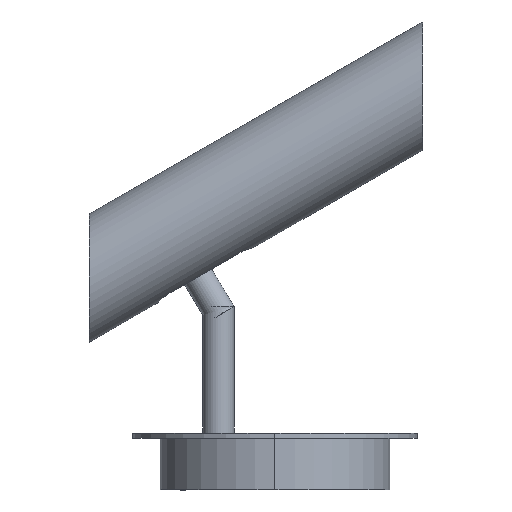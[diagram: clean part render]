
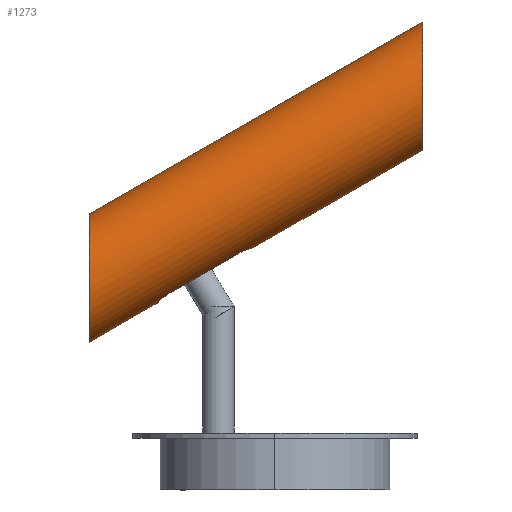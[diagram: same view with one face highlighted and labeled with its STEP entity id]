
A CAD part, left-side view. The second image highlights one B-rep face of the part: STEP entity #1273.
In plain terms, the highlighted cylindrical face has radius 19.495 mm (diameter 38.989 mm), a partial arc.
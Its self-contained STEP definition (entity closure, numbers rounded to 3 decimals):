
#61=ELLIPSE('',#1364,22.511,19.495);
#65=ELLIPSE('',#1369,22.511,19.495);
#68=B_SPLINE_CURVE_WITH_KNOTS('',3,(#1902,#1903,#1904,#1905,#1906,#1907,
#1908,#1909,#1910,#1911,#1912,#1913,#1914,#1915,#1916,#1917,#1918,#1919),
 .UNSPECIFIED.,.F.,.F.,(4,2,2,2,2,2,2,2,4),(26.686,27.615,
28.718,29.821,30.925,32.029,33.133,
34.238,35.342),.UNSPECIFIED.);
#71=B_SPLINE_CURVE_WITH_KNOTS('',3,(#1969,#1970,#1971,#1972,#1973,#1974,
#1975,#1976,#1977,#1978,#1979,#1980,#1981,#1982,#1983,#1984,#1985,#1986),
 .UNSPECIFIED.,.F.,.F.,(4,2,2,2,2,2,2,2,4),(0.,1.104,
2.208,3.312,4.416,5.52,6.623,
7.727,8.656),.UNSPECIFIED.);
#126=CYLINDRICAL_SURFACE('',#1376,19.495);
#160=FACE_OUTER_BOUND('',#245,.T.);
#245=EDGE_LOOP('',(#896,#897,#898,#899,#900,#901,#902,#903));
#332=LINE('',#1945,#453);
#334=LINE('',#2014,#455);
#335=LINE('',#2015,#456);
#336=LINE('',#2016,#457);
#453=VECTOR('',#1509,304.8);
#455=VECTOR('',#1547,304.8);
#456=VECTOR('',#1548,304.8);
#457=VECTOR('',#1549,304.8);
#572=VERTEX_POINT('',#1899);
#573=VERTEX_POINT('',#1901);
#575=VERTEX_POINT('',#1943);
#576=VERTEX_POINT('',#1948);
#577=VERTEX_POINT('',#1989);
#578=VERTEX_POINT('',#1990);
#581=VERTEX_POINT('',#1998);
#582=VERTEX_POINT('',#1999);
#685=EDGE_CURVE('',#573,#572,#68,.T.);
#689=EDGE_CURVE('',#572,#575,#332,.T.);
#692=EDGE_CURVE('',#575,#576,#71,.T.);
#694=EDGE_CURVE('',#578,#577,#61,.T.);
#698=EDGE_CURVE('',#582,#581,#65,.T.);
#704=EDGE_CURVE('',#582,#577,#334,.T.);
#705=EDGE_CURVE('',#573,#581,#335,.T.);
#706=EDGE_CURVE('',#578,#576,#336,.T.);
#896=ORIENTED_EDGE('',*,*,#704,.F.);
#897=ORIENTED_EDGE('',*,*,#698,.T.);
#898=ORIENTED_EDGE('',*,*,#705,.F.);
#899=ORIENTED_EDGE('',*,*,#685,.T.);
#900=ORIENTED_EDGE('',*,*,#689,.T.);
#901=ORIENTED_EDGE('',*,*,#692,.T.);
#902=ORIENTED_EDGE('',*,*,#706,.F.);
#903=ORIENTED_EDGE('',*,*,#694,.T.);
#1273=ADVANCED_FACE('',(#160),#126,.T.);
#1364=AXIS2_PLACEMENT_3D('',#1992,#1520,#1521);
#1369=AXIS2_PLACEMENT_3D('',#2001,#1530,#1531);
#1376=AXIS2_PLACEMENT_3D('',#2013,#1545,#1546);
#1509=DIRECTION('',(0.,0.866,0.499));
#1520=DIRECTION('center_axis',(0.,-1.,0.001));
#1521=DIRECTION('ref_axis',(0.,-0.001,
-1.));
#1530=DIRECTION('center_axis',(0.,1.,-0.001));
#1531=DIRECTION('ref_axis',(0.,-0.001,
-1.));
#1545=DIRECTION('center_axis',(0.,0.866,0.499));
#1546=DIRECTION('ref_axis',(0.,0.499,-0.866));
#1547=DIRECTION('',(0.,0.866,0.499));
#1548=DIRECTION('',(0.,-0.866,-0.499));
#1549=DIRECTION('',(0.,-0.866,-0.499));
#1899=CARTESIAN_POINT('',(5.65,-36.724,69.214));
#1901=CARTESIAN_POINT('',(0.,-41.352,65.583));
#1902=CARTESIAN_POINT('Ctrl Pts',(0.,-41.352,
65.583));
#1903=CARTESIAN_POINT('Ctrl Pts',(0.313,-41.344,65.587));
#1904=CARTESIAN_POINT('Ctrl Pts',(0.632,-41.317,65.612));
#1905=CARTESIAN_POINT('Ctrl Pts',(1.326,-41.216,65.709));
#1906=CARTESIAN_POINT('Ctrl Pts',(1.701,-41.132,65.791));
#1907=CARTESIAN_POINT('Ctrl Pts',(2.418,-40.912,66.006));
#1908=CARTESIAN_POINT('Ctrl Pts',(2.761,-40.775,66.138));
#1909=CARTESIAN_POINT('Ctrl Pts',(3.395,-40.456,66.439));
#1910=CARTESIAN_POINT('Ctrl Pts',(3.685,-40.274,66.607));
#1911=CARTESIAN_POINT('Ctrl Pts',(4.2,-39.881,66.956));
#1912=CARTESIAN_POINT('Ctrl Pts',(4.443,-39.657,67.15));
#1913=CARTESIAN_POINT('Ctrl Pts',(4.87,-39.16,67.557));
#1914=CARTESIAN_POINT('Ctrl Pts',(5.055,-38.887,67.771));
#1915=CARTESIAN_POINT('Ctrl Pts',(5.353,-38.307,68.201));
#1916=CARTESIAN_POINT('Ctrl Pts',(5.466,-37.999,68.417));
#1917=CARTESIAN_POINT('Ctrl Pts',(5.615,-37.367,68.831));
#1918=CARTESIAN_POINT('Ctrl Pts',(5.65,-37.043,69.03));
#1919=CARTESIAN_POINT('Ctrl Pts',(5.65,-36.724,69.214));
#1943=CARTESIAN_POINT('',(5.65,-12.847,82.97));
#1945=CARTESIAN_POINT('',(5.65,-36.724,69.214));
#1948=CARTESIAN_POINT('',(0.,-7.384,85.152));
#1969=CARTESIAN_POINT('Ctrl Pts',(5.65,-12.847,82.97));
#1970=CARTESIAN_POINT('Ctrl Pts',(5.65,-12.528,83.154));
#1971=CARTESIAN_POINT('Ctrl Pts',(5.615,-12.193,83.334));
#1972=CARTESIAN_POINT('Ctrl Pts',(5.466,-11.518,83.672));
#1973=CARTESIAN_POINT('Ctrl Pts',(5.353,-11.177,83.831));
#1974=CARTESIAN_POINT('Ctrl Pts',(5.055,-10.515,84.117));
#1975=CARTESIAN_POINT('Ctrl Pts',(4.87,-10.193,84.246));
#1976=CARTESIAN_POINT('Ctrl Pts',(4.443,-9.591,84.471));
#1977=CARTESIAN_POINT('Ctrl Pts',(4.201,-9.311,84.568));
#1978=CARTESIAN_POINT('Ctrl Pts',(3.687,-8.812,84.733));
#1979=CARTESIAN_POINT('Ctrl Pts',(3.396,-8.575,84.806));
#1980=CARTESIAN_POINT('Ctrl Pts',(2.762,-8.154,84.932));
#1981=CARTESIAN_POINT('Ctrl Pts',(2.418,-7.971,84.984));
#1982=CARTESIAN_POINT('Ctrl Pts',(1.701,-7.674,85.066));
#1983=CARTESIAN_POINT('Ctrl Pts',(1.327,-7.562,85.097));
#1984=CARTESIAN_POINT('Ctrl Pts',(0.632,-7.426,85.136));
#1985=CARTESIAN_POINT('Ctrl Pts',(0.313,-7.392,85.147));
#1986=CARTESIAN_POINT('Ctrl Pts',(0.,-7.384,
85.152));
#1989=CARTESIAN_POINT('',(0.,51.893,164.299));
#1990=CARTESIAN_POINT('',(0.,51.851,119.278));
#1992=CARTESIAN_POINT('Origin',(0.,51.872,
141.788));
#1998=CARTESIAN_POINT('',(0.,-65.111,51.895));
#1999=CARTESIAN_POINT('',(0.,-65.069,96.916));
#2001=CARTESIAN_POINT('Origin',(0.,-65.09,
74.406));
#2013=CARTESIAN_POINT('Origin',(0.,51.872,
141.788));
#2014=CARTESIAN_POINT('',(0.,-65.069,96.916));
#2015=CARTESIAN_POINT('',(0.,-41.352,65.583));
#2016=CARTESIAN_POINT('',(0.,51.851,119.278));
